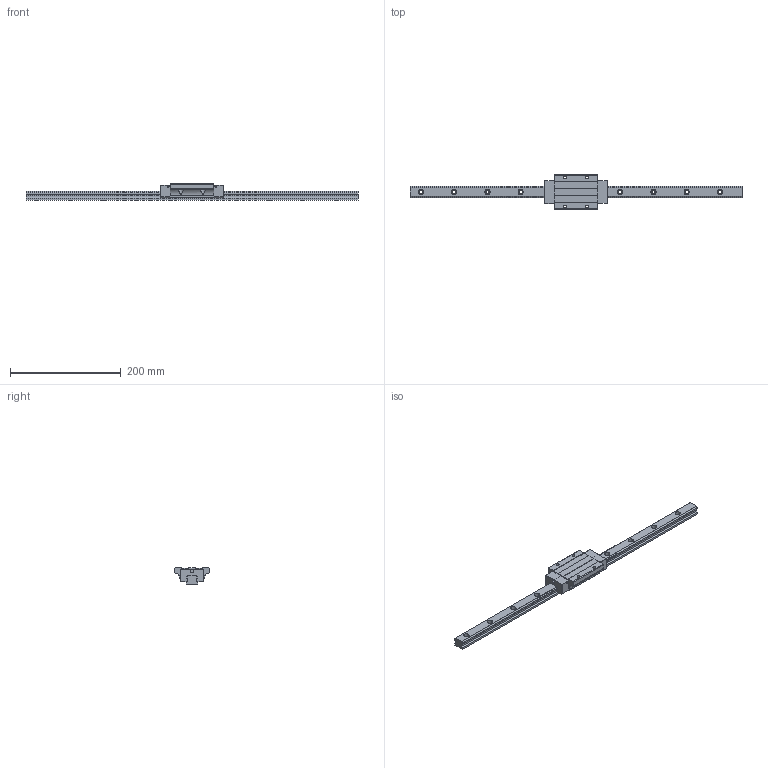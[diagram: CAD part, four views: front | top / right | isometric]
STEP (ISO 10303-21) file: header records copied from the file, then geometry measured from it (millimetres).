
FILE_DESCRIPTION (( 'STEP AP203' ), '1' );
FILE_NAME ('TRH20FE-SZ.STEP', '2024-06-26T06:19:27', ( '' ), ( '' ), 'SwSTEP 2.0', 'SolidWorks 2022', '' );
FILE_SCHEMA (( 'CONFIG_CONTROL_DESIGN' ));
Length unit declared in the file: millimetre
Products named in the file (1): TRH20FE-SZ
Bounding box: 600 x 63 x 30 mm (x, y, z)
Volume: 274515.2 mm3; surface area: 73459 mm2
Topology: 2 solids, 2 shells, 222 faces, 598 edges, 392 vertices
Faces by surface type: cylinder 126, plane 92, sphere 4
Entity records: 7687 total; most frequent: CARTESIAN_POINT 1831, DIRECTION 1242, ORIENTED_EDGE 1188, EDGE_CURVE 594, AXIS2_PLACEMENT_3D 451, VERTEX_POINT 392, LINE 340, VECTOR 340
